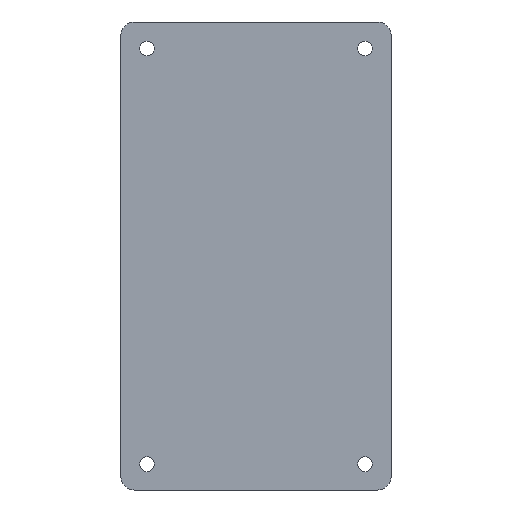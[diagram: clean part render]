
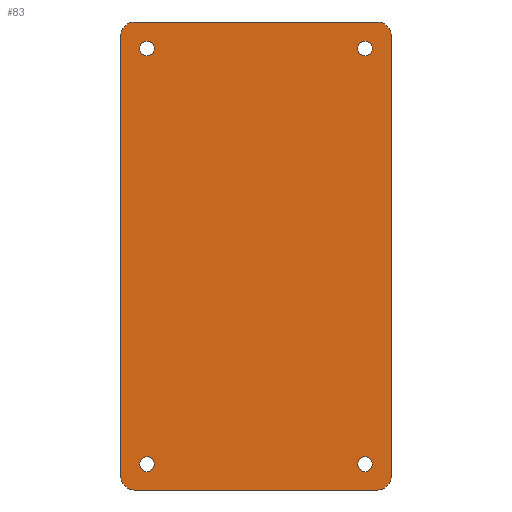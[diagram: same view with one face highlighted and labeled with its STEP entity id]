
A CAD part, front view. The second image highlights one B-rep face of the part: STEP entity #83.
In plain terms, the highlighted planar face has unit normal (0, -1, 0).
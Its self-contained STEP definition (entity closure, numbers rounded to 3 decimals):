
#83=ADVANCED_FACE('',(#154,#155,#156,#157,#117),#361,.T.);
#117=FACE_OUTER_BOUND('',#167,.F.);
#154=FACE_BOUND('',#163,.F.);
#155=FACE_BOUND('',#164,.F.);
#156=FACE_BOUND('',#165,.F.);
#157=FACE_BOUND('',#166,.F.);
#163=EDGE_LOOP('',(#216,#217));
#164=EDGE_LOOP('',(#218,#219));
#165=EDGE_LOOP('',(#220,#221));
#166=EDGE_LOOP('',(#222,#223));
#167=EDGE_LOOP('',(#224,#225,#226,#227,#228,#229,#230,#231));
#216=ORIENTED_EDGE('',*,*,#452,.T.);
#217=ORIENTED_EDGE('',*,*,#450,.T.);
#218=ORIENTED_EDGE('',*,*,#460,.T.);
#219=ORIENTED_EDGE('',*,*,#458,.T.);
#220=ORIENTED_EDGE('',*,*,#456,.T.);
#221=ORIENTED_EDGE('',*,*,#454,.T.);
#222=ORIENTED_EDGE('',*,*,#448,.T.);
#223=ORIENTED_EDGE('',*,*,#446,.T.);
#224=ORIENTED_EDGE('',*,*,#482,.F.);
#225=ORIENTED_EDGE('',*,*,#470,.F.);
#226=ORIENTED_EDGE('',*,*,#483,.F.);
#227=ORIENTED_EDGE('',*,*,#466,.F.);
#228=ORIENTED_EDGE('',*,*,#484,.F.);
#229=ORIENTED_EDGE('',*,*,#462,.F.);
#230=ORIENTED_EDGE('',*,*,#485,.F.);
#231=ORIENTED_EDGE('',*,*,#474,.F.);
#361=PLANE('',#657);
#378=LINE('',#968,#418);
#379=LINE('',#969,#419);
#380=LINE('',#970,#420);
#381=LINE('',#971,#421);
#418=VECTOR('',#753,36.3);
#419=VECTOR('',#754,65.8);
#420=VECTOR('',#755,36.3);
#421=VECTOR('',#756,65.8);
#446=EDGE_CURVE('',#613,#612,#526,.T.);
#448=EDGE_CURVE('',#612,#613,#528,.T.);
#450=EDGE_CURVE('',#609,#608,#530,.T.);
#452=EDGE_CURVE('',#608,#609,#532,.T.);
#454=EDGE_CURVE('',#605,#604,#534,.T.);
#456=EDGE_CURVE('',#604,#605,#536,.T.);
#458=EDGE_CURVE('',#601,#600,#538,.T.);
#460=EDGE_CURVE('',#600,#601,#540,.T.);
#462=EDGE_CURVE('',#597,#596,#542,.T.);
#466=EDGE_CURVE('',#593,#592,#544,.T.);
#470=EDGE_CURVE('',#589,#588,#546,.T.);
#474=EDGE_CURVE('',#585,#584,#548,.T.);
#482=EDGE_CURVE('',#588,#585,#378,.T.);
#483=EDGE_CURVE('',#592,#589,#379,.T.);
#484=EDGE_CURVE('',#596,#593,#380,.T.);
#485=EDGE_CURVE('',#584,#597,#381,.T.);
#526=CIRCLE('',#616,1.1);
#528=CIRCLE('',#618,1.1);
#530=CIRCLE('',#620,1.1);
#532=CIRCLE('',#622,1.1);
#534=CIRCLE('',#624,1.1);
#536=CIRCLE('',#626,1.1);
#538=CIRCLE('',#628,1.1);
#540=CIRCLE('',#630,1.1);
#542=CIRCLE('',#632,2.);
#544=CIRCLE('',#634,2.);
#546=CIRCLE('',#636,2.);
#548=CIRCLE('',#638,2.);
#584=VERTEX_POINT('',#902);
#585=VERTEX_POINT('',#903);
#588=VERTEX_POINT('',#906);
#589=VERTEX_POINT('',#907);
#592=VERTEX_POINT('',#910);
#593=VERTEX_POINT('',#911);
#596=VERTEX_POINT('',#914);
#597=VERTEX_POINT('',#915);
#600=VERTEX_POINT('',#918);
#601=VERTEX_POINT('',#919);
#604=VERTEX_POINT('',#922);
#605=VERTEX_POINT('',#923);
#608=VERTEX_POINT('',#926);
#609=VERTEX_POINT('',#927);
#612=VERTEX_POINT('',#930);
#613=VERTEX_POINT('',#931);
#616=AXIS2_PLACEMENT_3D('',#932,#693,#694);
#618=AXIS2_PLACEMENT_3D('',#934,#697,#698);
#620=AXIS2_PLACEMENT_3D('',#936,#701,#702);
#622=AXIS2_PLACEMENT_3D('',#938,#705,#706);
#624=AXIS2_PLACEMENT_3D('',#940,#709,#710);
#626=AXIS2_PLACEMENT_3D('',#942,#713,#714);
#628=AXIS2_PLACEMENT_3D('',#944,#717,#718);
#630=AXIS2_PLACEMENT_3D('',#946,#721,#722);
#632=AXIS2_PLACEMENT_3D('',#948,#725,#726);
#634=AXIS2_PLACEMENT_3D('',#952,#731,#732);
#636=AXIS2_PLACEMENT_3D('',#956,#737,#738);
#638=AXIS2_PLACEMENT_3D('',#960,#743,#744);
#657=AXIS2_PLACEMENT_3D('',#1013,#815,#816);
#693=DIRECTION('',(0.,-1.,0.));
#694=DIRECTION('',(1.,0.,0.));
#697=DIRECTION('',(0.,-1.,0.));
#698=DIRECTION('',(-1.,0.,0.));
#701=DIRECTION('',(0.,-1.,0.));
#702=DIRECTION('',(1.,0.,0.));
#705=DIRECTION('',(0.,-1.,0.));
#706=DIRECTION('',(-1.,0.,0.));
#709=DIRECTION('',(0.,-1.,0.));
#710=DIRECTION('',(1.,0.,0.));
#713=DIRECTION('',(0.,-1.,0.));
#714=DIRECTION('',(-1.,0.,0.));
#717=DIRECTION('',(0.,-1.,0.));
#718=DIRECTION('',(1.,0.,0.));
#721=DIRECTION('',(0.,-1.,0.));
#722=DIRECTION('',(-1.,0.,0.));
#725=DIRECTION('',(0.,-1.,0.));
#726=DIRECTION('',(-1.,0.,0.));
#731=DIRECTION('',(0.,-1.,0.));
#732=DIRECTION('',(0.,0.,-1.));
#737=DIRECTION('',(0.,-1.,0.));
#738=DIRECTION('',(1.,0.,0.));
#743=DIRECTION('',(0.,-1.,0.));
#744=DIRECTION('',(0.,0.,1.));
#753=DIRECTION('',(-1.,0.,0.));
#754=DIRECTION('',(0.,0.,1.));
#755=DIRECTION('',(1.,0.,0.));
#756=DIRECTION('',(0.,0.,-1.));
#815=DIRECTION('',(0.,-1.,0.));
#816=DIRECTION('',(0.,0.,1.));
#902=CARTESIAN_POINT('',(-20.15,-172.5,151.48));
#903=CARTESIAN_POINT('',(-18.15,-172.5,153.48));
#906=CARTESIAN_POINT('',(18.15,-172.5,153.48));
#907=CARTESIAN_POINT('',(20.15,-172.5,151.48));
#910=CARTESIAN_POINT('',(20.15,-172.5,85.68));
#911=CARTESIAN_POINT('',(18.15,-172.5,83.68));
#914=CARTESIAN_POINT('',(-18.15,-172.5,83.68));
#915=CARTESIAN_POINT('',(-20.15,-172.5,85.68));
#918=CARTESIAN_POINT('',(-17.35,-172.5,149.53));
#919=CARTESIAN_POINT('',(-15.15,-172.5,149.53));
#922=CARTESIAN_POINT('',(-17.35,-172.5,87.53));
#923=CARTESIAN_POINT('',(-15.15,-172.5,87.53));
#926=CARTESIAN_POINT('',(15.15,-172.5,87.53));
#927=CARTESIAN_POINT('',(17.35,-172.5,87.53));
#930=CARTESIAN_POINT('',(15.15,-172.5,149.53));
#931=CARTESIAN_POINT('',(17.35,-172.5,149.53));
#932=CARTESIAN_POINT('',(16.25,-172.5,149.53));
#934=CARTESIAN_POINT('',(16.25,-172.5,149.53));
#936=CARTESIAN_POINT('',(16.25,-172.5,87.53));
#938=CARTESIAN_POINT('',(16.25,-172.5,87.53));
#940=CARTESIAN_POINT('',(-16.25,-172.5,87.53));
#942=CARTESIAN_POINT('',(-16.25,-172.5,87.53));
#944=CARTESIAN_POINT('',(-16.25,-172.5,149.53));
#946=CARTESIAN_POINT('',(-16.25,-172.5,149.53));
#948=CARTESIAN_POINT('',(-18.15,-172.5,85.68));
#952=CARTESIAN_POINT('',(18.15,-172.5,85.68));
#956=CARTESIAN_POINT('',(18.15,-172.5,151.48));
#960=CARTESIAN_POINT('',(-18.15,-172.5,151.48));
#968=CARTESIAN_POINT('',(18.15,-172.5,153.48));
#969=CARTESIAN_POINT('',(20.15,-172.5,85.68));
#970=CARTESIAN_POINT('',(-18.15,-172.5,83.68));
#971=CARTESIAN_POINT('',(-20.15,-172.5,151.48));
#1013=CARTESIAN_POINT('',(20.848,-172.5,82.982));
